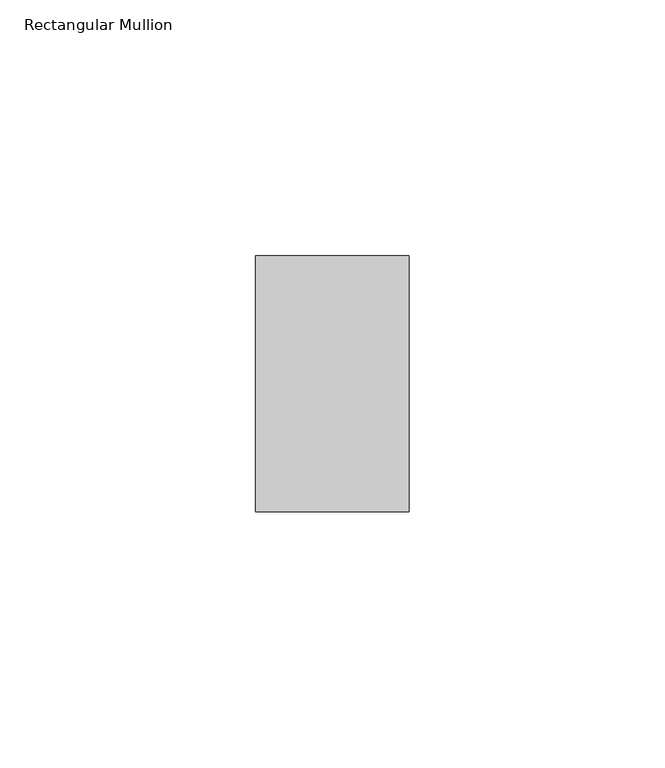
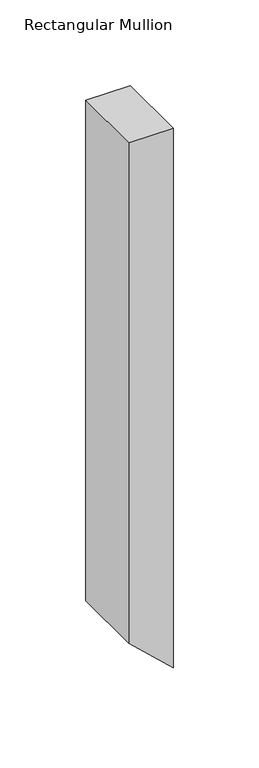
"""IFC4 building model written with IfcOpenShell, lengths in millimetres: member geometry, Rectangular Mullion : ARQ_TV_MULL_50x30mm."""

from ifc_helpers import new_model, si_unit, frame, origin, place, context, project, spatial, polyline, outline, extrude, source, transform, mapped, element, save


def rectangular_mullion_9108b79a(model_context):
    return source(origin(), model_context, "Body", "SweptSolid", [
        extrude(outline(polyline([(0.0, 0.0), (0.0, -30.0), (-356.6106536, -30.0), (-384.2877575, 0.0), (0.0, 0.0)])), frame((0.0, -25.0, 0.0), z_axis=(0.0, 1.0, 0.0), x_axis=(0.0, 0.0, 1.0)), (0.0, 0.0, 1.0), 50.0),
    ])


if __name__ == "__main__":
    model = new_model("IFC4")
    model_context = context("Model", 3, world=origin())
    ifc_project = project(units=[si_unit("LENGTHUNIT", "METRE", prefix="MILLI")], contexts=[model_context])
    site = spatial("IfcSite", under=ifc_project)
    building = spatial("IfcBuilding", under=site)
    placement = place(None, origin())
    rectangular_mullion_shape = rectangular_mullion_9108b79a(model_context)
    element("IfcMember", 1, ObjectType="Rectangular Mullion : ARQ_TV_MULL_50x30mm", at=placement, inside=building, context=model_context, shape_type="MappedRepresentation", body=[
        mapped(rectangular_mullion_shape, transform((0.0, 0.0, 0.0), x_axis=(1.0, 0.0, 0.0), y_axis=(0.0, 1.0, 0.0), z_axis=(0.0, 0.0, 1.0))),
    ])
    save(model, "model.ifc")
